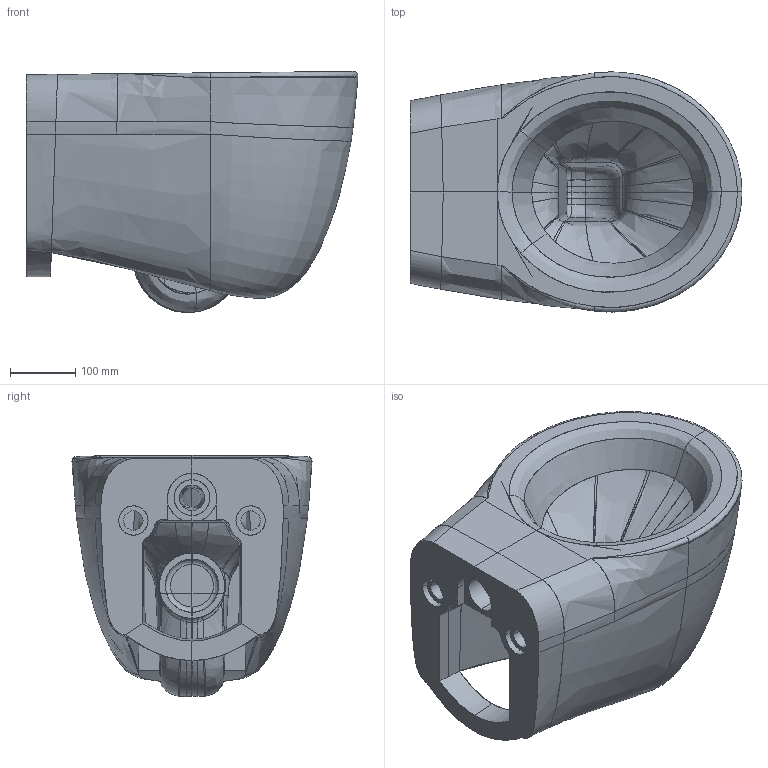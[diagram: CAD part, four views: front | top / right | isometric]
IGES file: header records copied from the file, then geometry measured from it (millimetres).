
Start section: START RECORD GO HERE.
Global section: file name: 7109_3D.igs; native system: DASSAULT SYSTEMES CATIA V5 R19 - www.3ds.com; preprocessor: CATIA Version 5 Release 19 SP 5 ; author: Luca; organization: DESKTOP-V7SON24; date: 20201027.122914; units: millimetre
Bounding box: 509.69 x 368.65 x 370.26 mm (x, y, z)
Surface area: 1180848.4 mm2 (no closed solid volume)
Topology: 0 solids, 0 shells, 352 faces, 2242 edges, 2232 vertices
Faces by surface type: bspline 296, plane 46, revolution 8, extrusion 2
